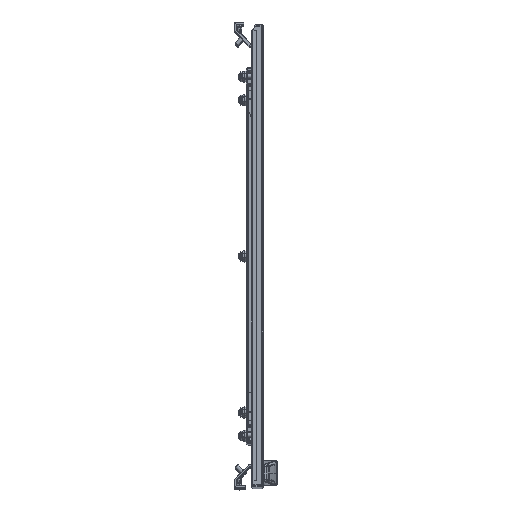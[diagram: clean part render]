
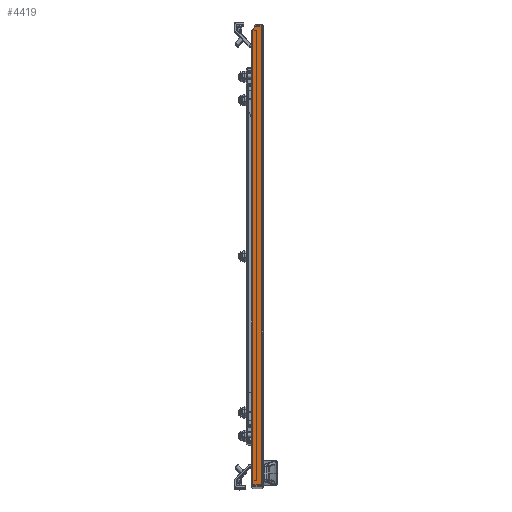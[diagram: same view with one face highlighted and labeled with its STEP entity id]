
A CAD part, top view. The second image highlights one B-rep face of the part: STEP entity #4419.
In plain terms, the highlighted planar face has unit normal (0, 0, 1).
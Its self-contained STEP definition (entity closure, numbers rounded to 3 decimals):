
#4419=ADVANCED_FACE('',(#12326),#12328,.T.);
#12326=FACE_BOUND('',#12327,.T.);
#12327=EDGE_LOOP('',(#31551,#31552,#31553,#31554,#31555,#31556,#31557,#31558,#31559));
#12328=PLANE('',#12329);
#12329=AXIS2_PLACEMENT_3D('',#12330,#12331,#12332);
#12330=CARTESIAN_POINT('',(-13.5,-293.2,785.5));
#12331=DIRECTION('',(0.,0.,1.));
#12332=DIRECTION('',(1.,0.,0.));
#31551=ORIENTED_EDGE('',*,*,#38324,.T.);
#31552=ORIENTED_EDGE('',*,*,#38330,.F.);
#31553=ORIENTED_EDGE('',*,*,#38331,.T.);
#31554=ORIENTED_EDGE('',*,*,#38332,.T.);
#31555=ORIENTED_EDGE('',*,*,#38333,.T.);
#31556=ORIENTED_EDGE('',*,*,#38334,.F.);
#31557=ORIENTED_EDGE('',*,*,#38335,.T.);
#31558=ORIENTED_EDGE('',*,*,#38336,.T.);
#31559=ORIENTED_EDGE('',*,*,#38287,.T.);
#38287=EDGE_CURVE('',#41771,#41769,#41772,.T.);
#38324=EDGE_CURVE('',#41769,#41834,#41836,.T.);
#38330=EDGE_CURVE('',#41845,#41834,#41846,.T.);
#38331=EDGE_CURVE('',#41845,#41847,#41848,.F.);
#38332=EDGE_CURVE('',#41847,#41849,#41850,.T.);
#38333=EDGE_CURVE('',#41849,#41851,#41852,.T.);
#38334=EDGE_CURVE('',#41853,#41851,#41854,.T.);
#38335=EDGE_CURVE('',#41853,#41855,#41856,.F.);
#38336=EDGE_CURVE('',#41855,#41771,#41857,.F.);
#41769=VERTEX_POINT('',#47642);
#41771=VERTEX_POINT('',#47647);
#41772=LINE('',#47648,#47649);
#41834=VERTEX_POINT('',#47791);
#41836=LINE('',#47795,#47796);
#41845=VERTEX_POINT('',#47818);
#41846=LINE('',#47819,#47820);
#41847=VERTEX_POINT('',#47822);
#41848=CIRCLE('',#47823,2.8);
#41849=VERTEX_POINT('',#47827);
#41850=LINE('',#47828,#47829);
#41851=VERTEX_POINT('',#47831);
#41852=LINE('',#47832,#47833);
#41853=VERTEX_POINT('',#47835);
#41854=LINE('',#47836,#47837);
#41855=VERTEX_POINT('',#47839);
#41856=CIRCLE('',#47840,1.55);
#41857=LINE('',#47844,#47845);
#47642=CARTESIAN_POINT('',(-11.95,-288.,785.5));
#47647=CARTESIAN_POINT('',(-11.95,287.859,785.5));
#47648=CARTESIAN_POINT('',(-11.95,287.859,785.5));
#47649=VECTOR('',#47650,1.);
#47650=DIRECTION('',(0.,-1.,0.));
#47791=CARTESIAN_POINT('',(-13.5,-288.,785.5));
#47795=CARTESIAN_POINT('',(-11.95,-288.,785.5));
#47796=VECTOR('',#47797,1.);
#47797=DIRECTION('',(-1.,0.,0.));
#47818=CARTESIAN_POINT('',(-13.5,-293.2,785.5));
#47819=CARTESIAN_POINT('',(-13.5,-293.2,785.5));
#47820=VECTOR('',#47821,1.);
#47821=DIRECTION('',(0.,1.,0.));
#47822=CARTESIAN_POINT('',(-10.7,-296.,785.5));
#47823=AXIS2_PLACEMENT_3D('',#47824,#47825,#47826);
#47824=CARTESIAN_POINT('',(-10.7,-293.2,785.5));
#47825=DIRECTION('',(0.,0.,-1.));
#47826=DIRECTION('',(0.,-1.,0.));
#47827=CARTESIAN_POINT('',(-1.3,-296.,785.5));
#47828=CARTESIAN_POINT('',(-10.7,-296.,785.5));
#47829=VECTOR('',#47830,1.);
#47830=DIRECTION('',(1.,0.,0.));
#47831=CARTESIAN_POINT('',(-1.3,296.,785.5));
#47832=CARTESIAN_POINT('',(-1.3,-296.,785.5));
#47833=VECTOR('',#47834,1.);
#47834=DIRECTION('',(0.,1.,0.));
#47835=CARTESIAN_POINT('',(-7.95,296.,785.5));
#47836=CARTESIAN_POINT('',(-7.95,296.,785.5));
#47837=VECTOR('',#47838,1.);
#47838=DIRECTION('',(1.,0.,0.));
#47839=CARTESIAN_POINT('',(-9.226,293.57,785.5));
#47840=AXIS2_PLACEMENT_3D('',#47841,#47842,#47843);
#47841=CARTESIAN_POINT('',(-7.95,294.45,785.5));
#47842=DIRECTION('',(0.,0.,-1.));
#47843=DIRECTION('',(-0.823,-0.568,0.));
#47844=CARTESIAN_POINT('',(-11.95,287.859,785.5));
#47845=VECTOR('',#47846,1.);
#47846=DIRECTION('',(0.431,0.903,0.));
